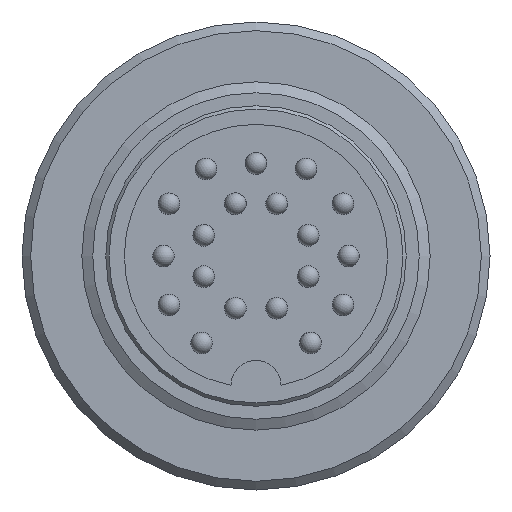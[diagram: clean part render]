
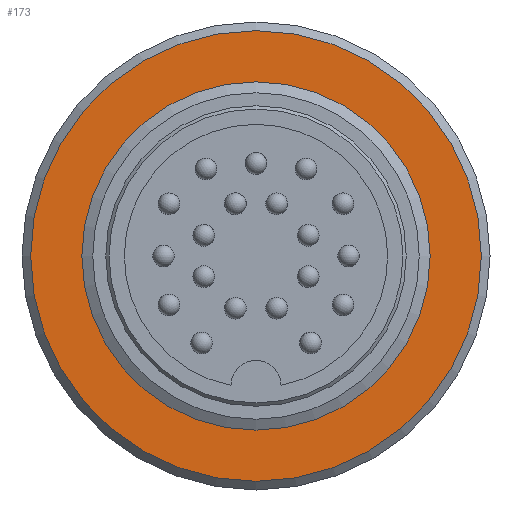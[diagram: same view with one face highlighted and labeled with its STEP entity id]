
A CAD part, left-side view. The second image highlights one B-rep face of the part: STEP entity #173.
In plain terms, the highlighted planar face has unit normal (-1, 0, 0).
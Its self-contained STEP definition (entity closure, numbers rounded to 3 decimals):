
#173=ADVANCED_FACE('',(#318,#319),#261,.F.);
#261=PLANE('',#1386);
#318=FACE_BOUND('',#432,.T.);
#319=FACE_BOUND('',#433,.T.);
#432=EDGE_LOOP('',(#693));
#433=EDGE_LOOP('',(#694));
#579=CIRCLE('',#1368,10.35);
#587=CIRCLE('',#1385,7.5);
#693=ORIENTED_EDGE('',*,*,#1101,.T.);
#694=ORIENTED_EDGE('',*,*,#1109,.T.);
#979=VERTEX_POINT('',#2016);
#987=VERTEX_POINT('',#2041);
#1101=EDGE_CURVE('',#979,#979,#579,.T.);
#1109=EDGE_CURVE('',#987,#987,#587,.T.);
#1368=AXIS2_PLACEMENT_3D('',#2015,#1578,#1579);
#1385=AXIS2_PLACEMENT_3D('',#2040,#1612,#1613);
#1386=AXIS2_PLACEMENT_3D('',#2042,#1614,#1615);
#1578=DIRECTION('',(-1.,0.,0.));
#1579=DIRECTION('',(0.,0.,-1.));
#1612=DIRECTION('',(1.,0.,0.));
#1613=DIRECTION('',(0.,0.,-1.));
#1614=DIRECTION('',(1.,0.,0.));
#1615=DIRECTION('',(0.,0.,-1.));
#2015=CARTESIAN_POINT('',(8.,0.,0.));
#2016=CARTESIAN_POINT('',(8.,0.,-10.35));
#2040=CARTESIAN_POINT('',(8.,0.,0.));
#2041=CARTESIAN_POINT('',(8.,0.,-7.5));
#2042=CARTESIAN_POINT('',(8.,0.,0.));
